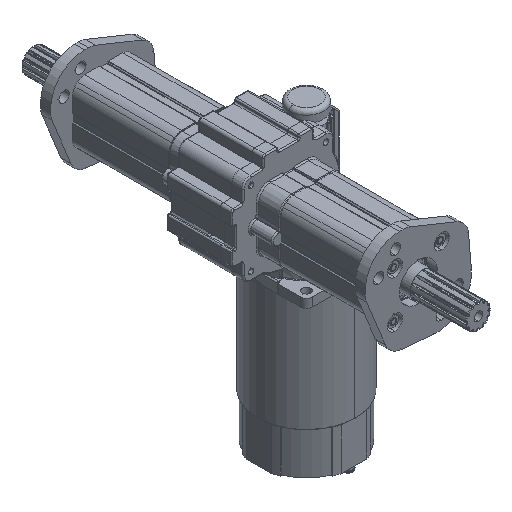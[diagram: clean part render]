
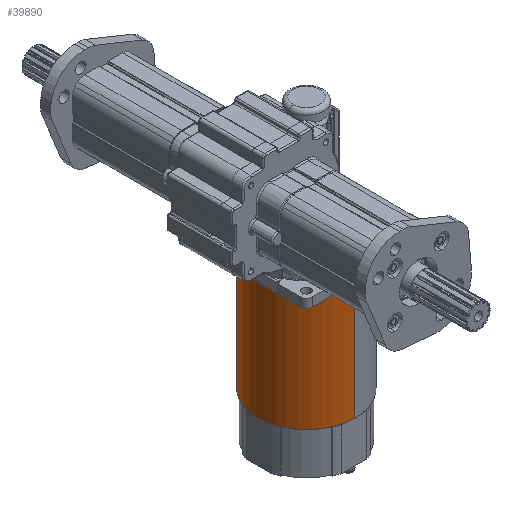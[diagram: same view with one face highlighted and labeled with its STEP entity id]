
A CAD part, isometric view. The second image highlights one B-rep face of the part: STEP entity #39890.
In plain terms, the highlighted cylindrical face has radius 39 mm (diameter 78 mm), a partial arc.
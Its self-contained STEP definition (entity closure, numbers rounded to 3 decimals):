
#1375 = CARTESIAN_POINT ( 'NONE',  ( -18.86, 1.621, -51.25 ) ) ;
#4105 = CIRCLE ( 'NONE', #6128, 39. ) ;
#6128 = AXIS2_PLACEMENT_3D ( 'NONE', #34207, #31059, #45224 ) ;
#6303 = CARTESIAN_POINT ( 'NONE',  ( -20.726, -76.357, -51.25 ) ) ;
#6413 = VERTEX_POINT ( 'NONE', #39603 ) ;
#7377 = EDGE_CURVE ( 'NONE', #37072, #38374, #4105, .T. ) ;
#8889 = EDGE_CURVE ( 'NONE', #37072, #42267, #19022, .T. ) ;
#9382 = ORIENTED_EDGE ( 'NONE', *, *, #7377, .T. ) ;
#13186 = DIRECTION ( 'NONE',  ( 0., 0., 1. ) ) ;
#13298 = CARTESIAN_POINT ( 'NONE',  ( -19.793, -37.368, -51.25 ) ) ;
#14551 = CARTESIAN_POINT ( 'NONE',  ( -20.726, -76.357, -145.75 ) ) ;
#14823 = EDGE_LOOP ( 'NONE', ( #9382, #28365, #30385, #18950 ) ) ;
#15434 = CARTESIAN_POINT ( 'NONE',  ( -18.86, 1.621, -145.75 ) ) ;
#16404 = CIRCLE ( 'NONE', #20874, 39. ) ;
#17055 = DIRECTION ( 'NONE',  ( 0., 0., 1. ) ) ;
#18253 = DIRECTION ( 'NONE',  ( 0., 0., 1. ) ) ;
#18424 = EDGE_CURVE ( 'NONE', #6413, #42267, #16404, .T. ) ;
#18950 = ORIENTED_EDGE ( 'NONE', *, *, #8889, .F. ) ;
#19022 = LINE ( 'NONE', #1375, #35214 ) ;
#20874 = AXIS2_PLACEMENT_3D ( 'NONE', #46033, #35297, #21111 ) ;
#21111 = DIRECTION ( 'NONE',  ( 0.024, 1., 0. ) ) ;
#23329 = LINE ( 'NONE', #6303, #31148 ) ;
#23908 = EDGE_CURVE ( 'NONE', #38374, #6413, #23329, .T. ) ;
#26903 = FACE_OUTER_BOUND ( 'NONE', #14823, .T. ) ;
#27189 = CARTESIAN_POINT ( 'NONE',  ( -18.86, 1.621, -51.75 ) ) ;
#28365 = ORIENTED_EDGE ( 'NONE', *, *, #23908, .T. ) ;
#29146 = CYLINDRICAL_SURFACE ( 'NONE', #35084, 39. ) ;
#30385 = ORIENTED_EDGE ( 'NONE', *, *, #18424, .T. ) ;
#31059 = DIRECTION ( 'NONE',  ( 0., 0., 1. ) ) ;
#31148 = VECTOR ( 'NONE', #13186, 1000. ) ;
#34207 = CARTESIAN_POINT ( 'NONE',  ( -19.793, -37.368, -145.75 ) ) ;
#35084 = AXIS2_PLACEMENT_3D ( 'NONE', #13298, #17055, #42367 ) ;
#35214 = VECTOR ( 'NONE', #18253, 1000. ) ;
#35297 = DIRECTION ( 'NONE',  ( 0., 0., -1. ) ) ;
#37072 = VERTEX_POINT ( 'NONE', #15434 ) ;
#38374 = VERTEX_POINT ( 'NONE', #14551 ) ;
#39603 = CARTESIAN_POINT ( 'NONE',  ( -20.726, -76.357, -51.75 ) ) ;
#39890 = ADVANCED_FACE ( 'NONE', ( #26903 ), #29146, .T. ) ;
#42267 = VERTEX_POINT ( 'NONE', #27189 ) ;
#42367 = DIRECTION ( 'NONE',  ( 0.024, 1., 0. ) ) ;
#45224 = DIRECTION ( 'NONE',  ( -0.024, -1., 0. ) ) ;
#46033 = CARTESIAN_POINT ( 'NONE',  ( -19.793, -37.368, -51.75 ) ) ;
